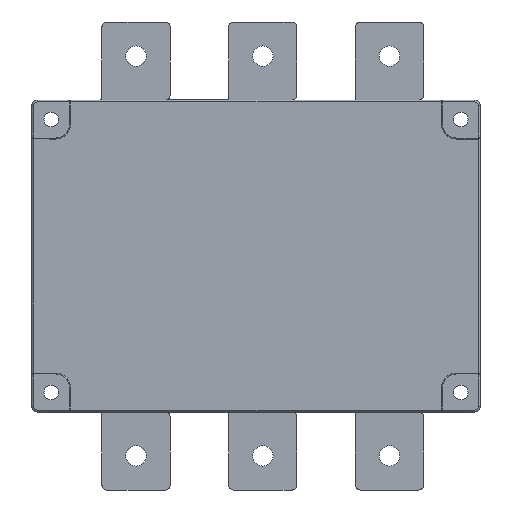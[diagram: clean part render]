
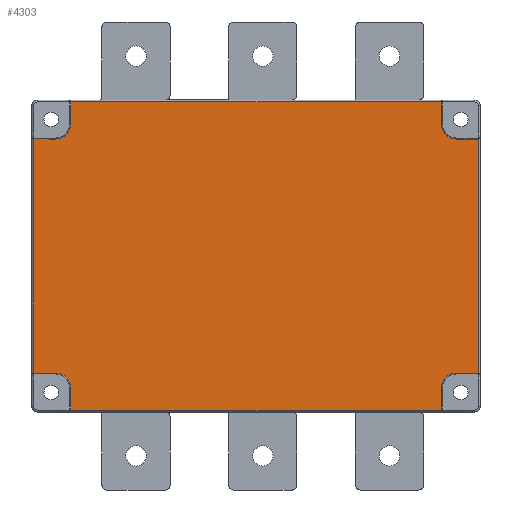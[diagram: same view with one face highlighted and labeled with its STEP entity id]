
A CAD part, front view. The second image highlights one B-rep face of the part: STEP entity #4303.
In plain terms, the highlighted planar face has unit normal (0, -1, 0).
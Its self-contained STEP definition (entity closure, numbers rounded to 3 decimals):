
#1140=DIRECTION('',(0.,0.,-1.));
#1141=VECTOR('',#1140,120.);
#1142=CARTESIAN_POINT('',(-114.,2.,60.));
#1143=LINE('',#1142,#1141);
#1157=DIRECTION('',(0.,0.,-1.));
#1158=VECTOR('',#1157,11.);
#1159=CARTESIAN_POINT('',(95.,2.,79.));
#1160=LINE('',#1159,#1158);
#1161=CARTESIAN_POINT('',(103.,2.,68.));
#1162=DIRECTION('',(0.,-1.,0.));
#1163=DIRECTION('',(-1.,0.,0.));
#1164=AXIS2_PLACEMENT_3D('',#1161,#1162,#1163);
#1166=DIRECTION('',(1.,0.,0.));
#1167=VECTOR('',#1166,11.);
#1168=CARTESIAN_POINT('',(103.,2.,60.));
#1169=LINE('',#1168,#1167);
#1170=DIRECTION('',(-1.,0.,0.));
#1171=VECTOR('',#1170,11.);
#1172=CARTESIAN_POINT('',(114.,2.,-60.));
#1173=LINE('',#1172,#1171);
#1174=CARTESIAN_POINT('',(103.,2.,-68.));
#1175=DIRECTION('',(0.,-1.,0.));
#1176=DIRECTION('',(0.,0.,1.));
#1177=AXIS2_PLACEMENT_3D('',#1174,#1175,#1176);
#1179=DIRECTION('',(0.,0.,-1.));
#1180=VECTOR('',#1179,11.);
#1181=CARTESIAN_POINT('',(95.,2.,-68.));
#1182=LINE('',#1181,#1180);
#1183=DIRECTION('',(0.,0.,1.));
#1184=VECTOR('',#1183,11.);
#1185=CARTESIAN_POINT('',(-95.,2.,
-79.));
#1186=LINE('',#1185,#1184);
#1187=CARTESIAN_POINT('',(-103.,2.,-68.));
#1188=DIRECTION('',(0.,-1.,0.));
#1189=DIRECTION('',(1.,0.,0.));
#1190=AXIS2_PLACEMENT_3D('',#1187,#1188,#1189);
#1192=DIRECTION('',(-1.,0.,0.));
#1193=VECTOR('',#1192,11.);
#1194=CARTESIAN_POINT('',(-103.,2.,-60.));
#1195=LINE('',#1194,#1193);
#1196=DIRECTION('',(1.,0.,0.));
#1197=VECTOR('',#1196,11.);
#1198=CARTESIAN_POINT('',(-114.,2.,60.));
#1199=LINE('',#1198,#1197);
#1200=CARTESIAN_POINT('',(-103.,2.,68.));
#1201=DIRECTION('',(0.,-1.,0.));
#1202=DIRECTION('',(0.,0.,-1.));
#1203=AXIS2_PLACEMENT_3D('',#1200,#1201,#1202);
#1205=DIRECTION('',(0.,0.,1.));
#1206=VECTOR('',#1205,11.);
#1207=CARTESIAN_POINT('',(-95.,2.,68.));
#1208=LINE('',#1207,#1206);
#1209=DIRECTION('',(-1.,0.,0.));
#1210=VECTOR('',#1209,190.);
#1211=CARTESIAN_POINT('',(95.,2.,79.));
#1212=LINE('',#1211,#1210);
#1352=DIRECTION('',(0.,0.,1.));
#1353=VECTOR('',#1352,120.);
#1354=CARTESIAN_POINT('',(114.,2.,-60.));
#1355=LINE('',#1354,#1353);
#1501=DIRECTION('',(1.,0.,0.));
#1502=VECTOR('',#1501,190.);
#1503=CARTESIAN_POINT('',(-95.,2.,
-79.));
#1504=LINE('',#1503,#1502);
#2192=CARTESIAN_POINT('',(95.,2.,79.));
#2193=CARTESIAN_POINT('',(-95.,2.,79.));
#2194=VERTEX_POINT('',#2192);
#2195=VERTEX_POINT('',#2193);
#2196=CARTESIAN_POINT('',(95.,2.,68.));
#2197=VERTEX_POINT('',#2196);
#2198=CARTESIAN_POINT('',(103.,2.,60.));
#2199=VERTEX_POINT('',#2198);
#2200=CARTESIAN_POINT('',(114.,2.,60.));
#2201=VERTEX_POINT('',#2200);
#2202=CARTESIAN_POINT('',(114.,2.,-60.));
#2203=VERTEX_POINT('',#2202);
#2204=CARTESIAN_POINT('',(103.,2.,-60.));
#2205=VERTEX_POINT('',#2204);
#2206=CARTESIAN_POINT('',(95.,2.,-68.));
#2207=VERTEX_POINT('',#2206);
#2208=CARTESIAN_POINT('',(95.,2.,-79.));
#2209=VERTEX_POINT('',#2208);
#2210=CARTESIAN_POINT('',(-95.,2.,
-79.));
#2211=VERTEX_POINT('',#2210);
#2212=CARTESIAN_POINT('',(-95.,2.,-68.));
#2213=VERTEX_POINT('',#2212);
#2214=CARTESIAN_POINT('',(-103.,2.,-60.));
#2215=VERTEX_POINT('',#2214);
#2216=CARTESIAN_POINT('',(-114.,2.,-60.));
#2217=VERTEX_POINT('',#2216);
#2218=CARTESIAN_POINT('',(-114.,2.,60.));
#2219=VERTEX_POINT('',#2218);
#2220=CARTESIAN_POINT('',(-103.,2.,60.));
#2221=VERTEX_POINT('',#2220);
#2222=CARTESIAN_POINT('',(-95.,2.,68.));
#2223=VERTEX_POINT('',#2222);
#4266=CARTESIAN_POINT('',(0.,2.,0.));
#4267=DIRECTION('',(0.,-1.,0.));
#4268=DIRECTION('',(-1.,0.,0.));
#4269=AXIS2_PLACEMENT_3D('',#4266,#4267,#4268);
#4270=PLANE('',#4269);
#4272=ORIENTED_EDGE('',*,*,#4271,.F.);
#4274=ORIENTED_EDGE('',*,*,#4273,.T.);
#4276=ORIENTED_EDGE('',*,*,#4275,.T.);
#4278=ORIENTED_EDGE('',*,*,#4277,.T.);
#4280=ORIENTED_EDGE('',*,*,#4279,.F.);
#4282=ORIENTED_EDGE('',*,*,#4281,.T.);
#4284=ORIENTED_EDGE('',*,*,#4283,.T.);
#4286=ORIENTED_EDGE('',*,*,#4285,.T.);
#4288=ORIENTED_EDGE('',*,*,#4287,.F.);
#4290=ORIENTED_EDGE('',*,*,#4289,.T.);
#4292=ORIENTED_EDGE('',*,*,#4291,.T.);
#4294=ORIENTED_EDGE('',*,*,#4293,.T.);
#4295=ORIENTED_EDGE('',*,*,#4258,.F.);
#4296=ORIENTED_EDGE('',*,*,#2571,.T.);
#4298=ORIENTED_EDGE('',*,*,#4297,.T.);
#4300=ORIENTED_EDGE('',*,*,#4299,.T.);
#4301=EDGE_LOOP('',(#4272,#4274,#4276,#4278,#4280,#4282,#4284,#4286,#4288,#4290,
#4292,#4294,#4295,#4296,#4298,#4300));
#4302=FACE_OUTER_BOUND('',#4301,.F.);
#1165=CIRCLE('',#1164,8.);
#1178=CIRCLE('',#1177,8.);
#1191=CIRCLE('',#1190,8.);
#1204=CIRCLE('',#1203,8.);
#2571=EDGE_CURVE('',#2219,#2221,#1199,.T.);
#4258=EDGE_CURVE('',#2219,#2217,#1143,.T.);
#4271=EDGE_CURVE('',#2194,#2195,#1212,.T.);
#4273=EDGE_CURVE('',#2194,#2197,#1160,.T.);
#4275=EDGE_CURVE('',#2197,#2199,#1165,.T.);
#4277=EDGE_CURVE('',#2199,#2201,#1169,.T.);
#4279=EDGE_CURVE('',#2203,#2201,#1355,.T.);
#4281=EDGE_CURVE('',#2203,#2205,#1173,.T.);
#4283=EDGE_CURVE('',#2205,#2207,#1178,.T.);
#4285=EDGE_CURVE('',#2207,#2209,#1182,.T.);
#4287=EDGE_CURVE('',#2211,#2209,#1504,.T.);
#4289=EDGE_CURVE('',#2211,#2213,#1186,.T.);
#4291=EDGE_CURVE('',#2213,#2215,#1191,.T.);
#4293=EDGE_CURVE('',#2215,#2217,#1195,.T.);
#4297=EDGE_CURVE('',#2221,#2223,#1204,.T.);
#4299=EDGE_CURVE('',#2223,#2195,#1208,.T.);
#4303=ADVANCED_FACE('',(#4302),#4270,.T.);
